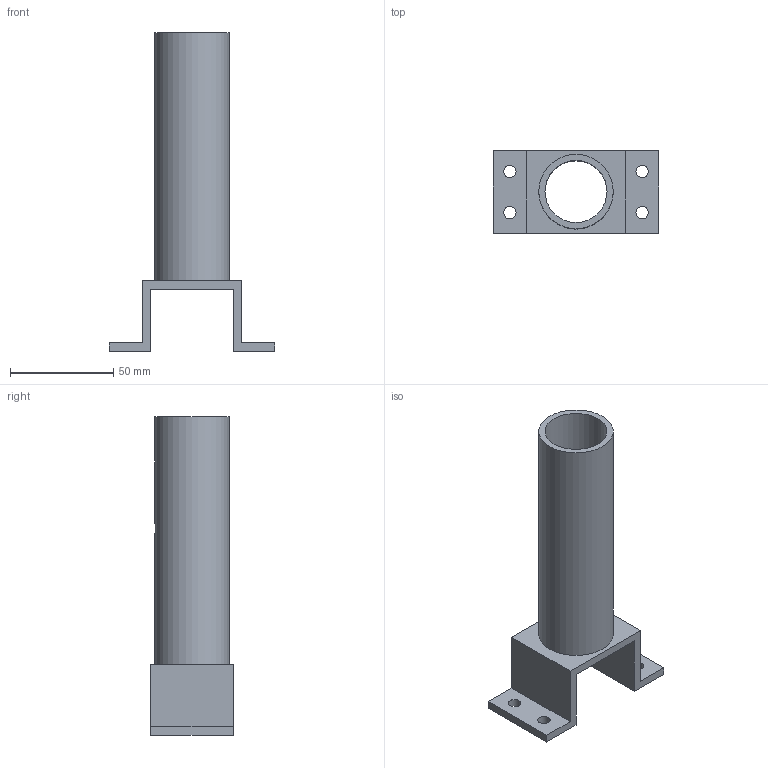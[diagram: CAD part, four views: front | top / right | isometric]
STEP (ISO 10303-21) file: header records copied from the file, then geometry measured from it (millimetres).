
FILE_DESCRIPTION(/* description */ ('CAx-IF Rec.Pracs.---Representation and Presentation of Product Manufacturing Information (PMI)---4.0---2014-10-13','CAx-IF Rec.Pracs.---3D Tessellated Geometry---0.4---2014-09-14','2;1'),/* implementation_level */ '2;1');
FILE_NAME(/* name */ 'korpus1',/* time_stamp */ '2020-03-20T17:17:44+01:00',/* author */ (''),/* organization */ (''),/* preprocessor_version */ 'ST-DEVELOPER v16.7',/* originating_system */ 'SIEMENS PLM Software NX 1847',/* authorisation */ $);
FILE_SCHEMA (('AP242_MANAGED_MODEL_BASED_3D_ENGINEERING_MIM_LF { 1 0 10303 442 1 1 4 }'));
Length unit declared in the file: millimetre
Products named in the file (1): korpus1
Bounding box: 80 x 40 x 154 mm (x, y, z)
Volume: 56357.2 mm3; surface area: 36560.4 mm2
Topology: 1 solids, 1 shells, 22 faces, 57 edges, 38 vertices
Faces by surface type: plane 15, cylinder 7
Full cylindrical faces by diameter (mm): 6 x5, 30 x1, 36 x1
Entity records: 815 total; most frequent: CARTESIAN_POINT 155, DIRECTION 122, ORIENTED_EDGE 100, AXIS2_PLACEMENT_3D 51, EDGE_CURVE 50, EDGE_LOOP 42, FACE_BOUND 42, VERTEX_POINT 38
